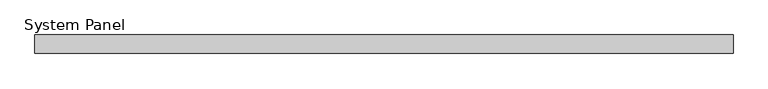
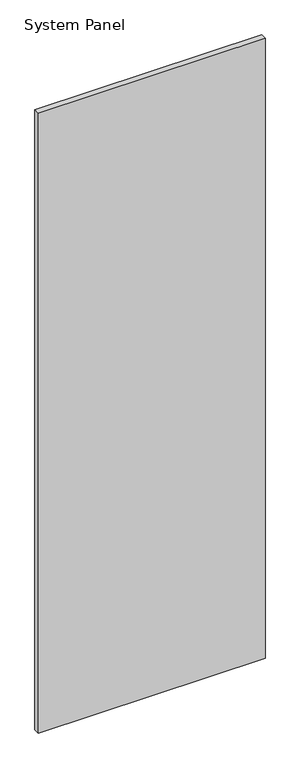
"""IFC4 building model written with IfcOpenShell, lengths in millimetres: plate geometry, System Panel : Panel_Glazed_Generic Showcase_30mm."""

from ifc_helpers import new_model, si_unit, origin, origin_with_axes, place, context, project, spatial, polyline, outline, extrude, source, transform, mapped, element, save


def system_panel_c846f28c(model_context):
    return source(origin(), model_context, "Body", "SweptSolid", [
        extrude(outline(polyline([(570.8333333, -30.0), (-570.8333333, -30.0), (-570.8333333, 0.0), (570.8333333, 0.0), (570.8333333, -30.0)])), origin_with_axes(), (0.0, 0.0, 1.0), 3300.0),
    ])


if __name__ == "__main__":
    model = new_model("IFC4")
    model_context = context("Model", 3, world=origin())
    ifc_project = project(units=[si_unit("LENGTHUNIT", "METRE", prefix="MILLI")], contexts=[model_context])
    site = spatial("IfcSite", under=ifc_project)
    building = spatial("IfcBuilding", under=site)
    placement = place(None, origin())
    system_panel_shape = system_panel_c846f28c(model_context)
    element("IfcPlate", 1, ObjectType="System Panel : Panel_Glazed_Generic Showcase_30mm", at=placement, inside=building, context=model_context, shape_type="MappedRepresentation", body=[
        mapped(system_panel_shape, transform((0.0, 0.0, 0.0), x_axis=(1.0, 0.0, 0.0), y_axis=(0.0, 1.0, 0.0), z_axis=(0.0, 0.0, 1.0))),
    ])
    save(model, "model.ifc")
